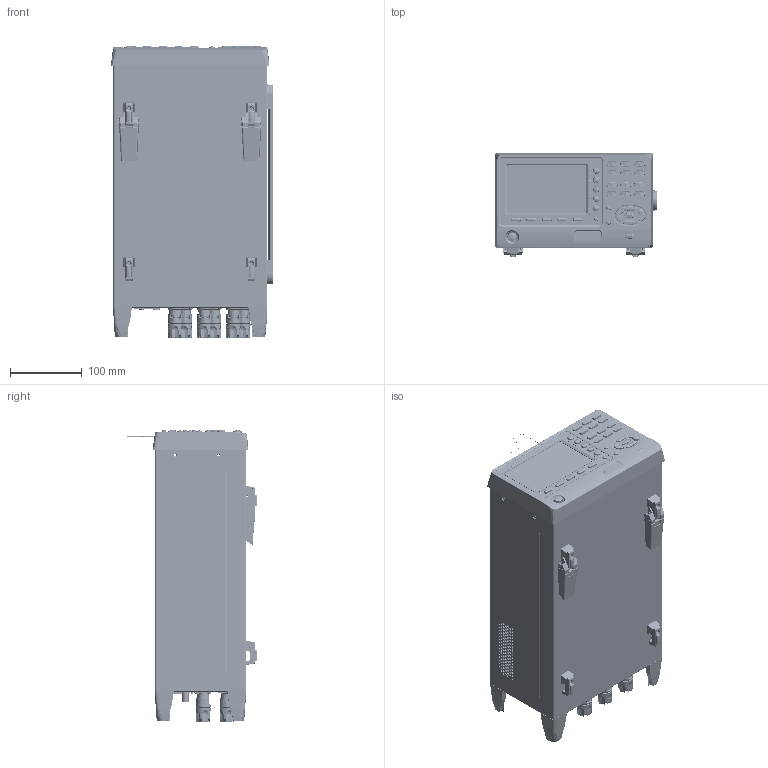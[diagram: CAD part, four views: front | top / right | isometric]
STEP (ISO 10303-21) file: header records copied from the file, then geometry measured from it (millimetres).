
FILE_DESCRIPTION((''),'2;1');
FILE_NAME('GPM8330_ASM_ASM','2023-06-29T13:25:48',('mike_lee'),(''),'CREO PARAMETRIC BY PTC INC, 2019080','CREO PARAMETRIC BY PTC INC, 2019080','');
FILE_SCHEMA(('CONFIG_CONTROL_DESIGN'));
Products named in the file (113): GPM8330_F_ASM_SKEL0001; GPM8330_FRAME-A; 63FP-AG115601_ASM; 57RB-40G17501; 57RB-40G17601; 51PM-83100201; GPM8330_MODEL_NP-A; GPM8330_FRONT_ASM-A_ASM; GPM8330_FRONTPCB; 62PM-330HP701; TH050800480NYR50S1; GPM8330_LCD_ASM_ASM; USB-V-S; CTT-1137; BL112_50S; BL112_50RL; 57RG-20B06201; 57RG-20B06301; GPM8330_FRONT_PCB_ASM; GPM8330_FP; S-M4-1_NUT; 62PM-330HP101_ASM; SW-POWER-01; GPM8330_SW-PWPCB; GPM8330_SW-POWER_ASM; 5004-130G010; GPM8330_FP_ASM_ASM; BTS-LOCK-3X6; GPM8330_F_ASM_ASM; GPM8330_BOTTOM; BSO-M3-6; GPM8330_PIN; 62PM-330LO101_ASM; GPM8330_RP; 62PM-330RP101_ASM; FMS-3X6; SS-120; IO_PCB02; 44UB-K0401201-UBB-4R-D14C-4D; RJ-45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
Assembly tree (204 placements, depth 7):
  GPM8330_ASM_ASM
    GPM8330_F_ASM_ASM
      GPM8330_F_ASM_SKEL0001
      GPM8330_FRONT_ASM-A_ASM
        63FP-AG115601_ASM
          GPM8330_FRAME-A
        57RB-40G17501
        57RB-40G17601
        51PM-83100201
        GPM8330_MODEL_NP-A
      GPM8330_FRONT_PCB_ASM
        GPM8330_FRONTPCB
        GPM8330_LCD_ASM_ASM
          62PM-330HP701
          TH050800480NYR50S1
        USB-V-S
        CTT-1137  x31
        BL112_50S
        BL112_50RL
        57RG-20B06201  x2
        57RG-20B06301  x2
      GPM8330_FP_ASM_ASM
        62PM-330HP101_ASM
          GPM8330_FP
          S-M4-1_NUT  x4
        GPM8330_SW-POWER_ASM
          SW-POWER-01
          GPM8330_SW-PWPCB
        5004-130G010
      BTS-LOCK-3X6  x3
    GPM8330_BOT_ASM_ASM
      62PM-330LO101_ASM
        GPM8330_BOTTOM
        BSO-M3-6  x6
        GPM8330_PIN  x6
        S-M4-1_NUT  x2
      62PM-330RP101_ASM
        GPM8330_RP
      FMS-3X6
      SS-120
      IO_PCBA-C_ASM
        IC_PCBA-C02_ASM
          IO_PCB02
          44UB-K0401201-UBB-4R-D14C-4D
          RJ-45
          RS232_MALE
          6314F
          BL112_50RL
          39PC-20400201-PCB-2-M3
        IO_PCBA-C01_ASM
          IO_PCB01
          SCSI-050_26PIN
          40DS-22500901-NIAN-YEONG
        62PM-330SC101_ASM
          IO_COVER
      INPUT_ASM_ASM  x3
        INPUT_TERMINAL_ASM
          63RP-XG100101_ASM
            INPUT_COV
          44BJ-211026A1_ASM  x2
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Bounding box: 225 x 181.45 x 406.6 mm (x, y, z)
Volume: 1186677.3 mm3; surface area: 1882869.4 mm2
Topology: 285 solids, 386 shells, 25265 faces, 66041 edges, 41779 vertices
Faces by surface type: plane 12825, cylinder 6538, cone 2605, bspline 1787, torus 754, sphere 553, extrusion 195, revolution 8
Entity records: 500689 total; most frequent: CARTESIAN_POINT 171448, ORIENTED_EDGE 69742, DIRECTION 65691, EDGE_CURVE 34988, AXIS2_PLACEMENT_3D 23153, VERTEX_POINT 22137, VECTOR 19383, LINE 19328
